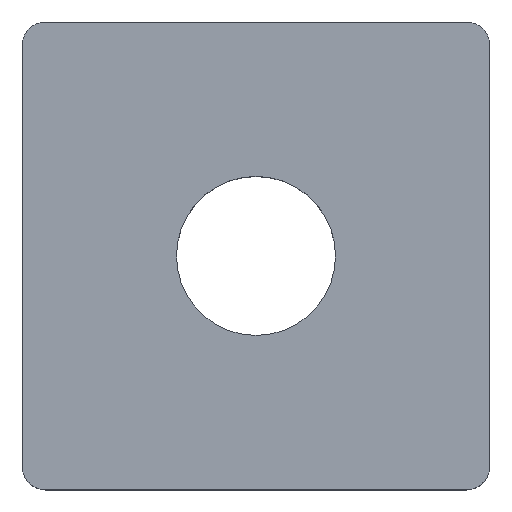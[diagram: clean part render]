
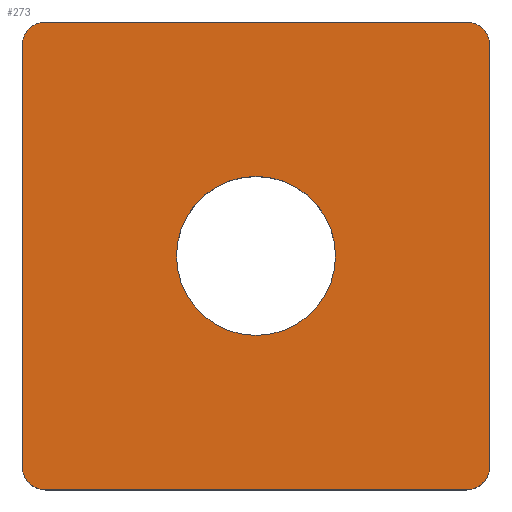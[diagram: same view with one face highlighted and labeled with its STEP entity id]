
A CAD part, top view. The second image highlights one B-rep face of the part: STEP entity #273.
In plain terms, the highlighted planar face has unit normal (0, 0, 1).
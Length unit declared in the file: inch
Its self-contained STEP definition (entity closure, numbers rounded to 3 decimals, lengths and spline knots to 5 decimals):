
#56=DIRECTION('',(-1.,0.,0.));
#57=VECTOR('',#56,0.70866);
#58=CARTESIAN_POINT('',(0.35433,-0.3937,
0.17717));
#59=LINE('',#58,#57);
#60=CARTESIAN_POINT('',(-0.35433,0.35433,
0.17717));
#61=DIRECTION('',(0.,0.,1.));
#62=DIRECTION('',(0.,1.,0.));
#63=AXIS2_PLACEMENT_3D('',#60,#61,#62);
#65=CARTESIAN_POINT('',(0.35433,0.35433,0.17717));
#66=DIRECTION('',(0.,0.,1.));
#67=DIRECTION('',(1.,0.,0.));
#68=AXIS2_PLACEMENT_3D('',#65,#66,#67);
#70=CARTESIAN_POINT('',(0.35433,-0.35433,
0.17717));
#71=DIRECTION('',(0.,0.,1.));
#72=DIRECTION('',(0.,-1.,0.));
#73=AXIS2_PLACEMENT_3D('',#70,#71,#72);
#75=CARTESIAN_POINT('',(-0.35433,-0.35433,
0.17717));
#76=DIRECTION('',(0.,0.,1.));
#77=DIRECTION('',(-1.,0.,0.));
#78=AXIS2_PLACEMENT_3D('',#75,#76,#77);
#80=CARTESIAN_POINT('',(0.,0.,0.17717));
#81=DIRECTION('',(0.,0.,-1.));
#82=DIRECTION('',(-1.,0.,0.));
#83=AXIS2_PLACEMENT_3D('',#80,#81,#82);
#85=CARTESIAN_POINT('',(0.,0.,0.17717));
#86=DIRECTION('',(0.,0.,-1.));
#87=DIRECTION('',(1.,0.,0.));
#88=AXIS2_PLACEMENT_3D('',#85,#86,#87);
#90=DIRECTION('',(0.,1.,0.));
#91=VECTOR('',#90,0.70866);
#92=CARTESIAN_POINT('',(-0.3937,-0.35433,
0.17717));
#93=LINE('',#92,#91);
#102=DIRECTION('',(1.,0.,0.));
#103=VECTOR('',#102,0.70866);
#104=CARTESIAN_POINT('',(-0.35433,0.3937,
0.17717));
#105=LINE('',#104,#103);
#114=DIRECTION('',(0.,-1.,0.));
#115=VECTOR('',#114,0.70866);
#116=CARTESIAN_POINT('',(0.3937,0.35433,
0.17717));
#117=LINE('',#116,#115);
#138=CARTESIAN_POINT('',(0.13386,0.,0.17717));
#140=VERTEX_POINT('',#138);
#144=CARTESIAN_POINT('',(0.3937,0.35433,
0.17717));
#145=CARTESIAN_POINT('',(0.3937,-0.35433,
0.17717));
#146=VERTEX_POINT('',#144);
#147=VERTEX_POINT('',#145);
#153=CARTESIAN_POINT('',(0.35433,0.3937,
0.17717));
#155=VERTEX_POINT('',#153);
#158=CARTESIAN_POINT('',(0.35433,-0.3937,
0.17717));
#159=VERTEX_POINT('',#158);
#160=CARTESIAN_POINT('',(-0.13386,0.,0.17717));
#161=VERTEX_POINT('',#160);
#162=CARTESIAN_POINT('',(-0.35433,-0.3937,
0.17717));
#163=VERTEX_POINT('',#162);
#164=CARTESIAN_POINT('',(-0.35433,0.3937,
0.17717));
#165=VERTEX_POINT('',#164);
#166=CARTESIAN_POINT('',(-0.3937,-0.35433,
0.17717));
#167=VERTEX_POINT('',#166);
#168=CARTESIAN_POINT('',(-0.3937,0.35433,
0.17717));
#169=VERTEX_POINT('',#168);
#247=CARTESIAN_POINT('',(0.,0.,0.17717));
#248=DIRECTION('',(0.,0.,-1.));
#249=DIRECTION('',(-1.,0.,0.));
#250=AXIS2_PLACEMENT_3D('',#247,#248,#249);
#251=PLANE('',#250);
#253=ORIENTED_EDGE('',*,*,#252,.T.);
#255=ORIENTED_EDGE('',*,*,#254,.F.);
#257=ORIENTED_EDGE('',*,*,#256,.T.);
#259=ORIENTED_EDGE('',*,*,#258,.F.);
#261=ORIENTED_EDGE('',*,*,#260,.T.);
#263=ORIENTED_EDGE('',*,*,#262,.F.);
#264=ORIENTED_EDGE('',*,*,#237,.T.);
#266=ORIENTED_EDGE('',*,*,#265,.F.);
#267=EDGE_LOOP('',(#253,#255,#257,#259,#261,#263,#264,#266));
#268=FACE_OUTER_BOUND('',#267,.F.);
#269=ORIENTED_EDGE('',*,*,#181,.F.);
#270=ORIENTED_EDGE('',*,*,#198,.F.);
#271=EDGE_LOOP('',(#269,#270));
#272=FACE_BOUND('',#271,.F.);
#64=CIRCLE('',#63,0.03937);
#69=CIRCLE('',#68,0.03937);
#74=CIRCLE('',#73,0.03937);
#79=CIRCLE('',#78,0.03937);
#84=CIRCLE('',#83,0.13386);
#89=CIRCLE('',#88,0.13386);
#181=EDGE_CURVE('',#161,#140,#84,.T.);
#198=EDGE_CURVE('',#140,#161,#89,.T.);
#237=EDGE_CURVE('',#159,#163,#59,.T.);
#252=EDGE_CURVE('',#167,#169,#93,.T.);
#254=EDGE_CURVE('',#165,#169,#64,.T.);
#256=EDGE_CURVE('',#165,#155,#105,.T.);
#258=EDGE_CURVE('',#146,#155,#69,.T.);
#260=EDGE_CURVE('',#146,#147,#117,.T.);
#262=EDGE_CURVE('',#159,#147,#74,.T.);
#265=EDGE_CURVE('',#167,#163,#79,.T.);
#273=ADVANCED_FACE('',(#268,#272),#251,.F.);
